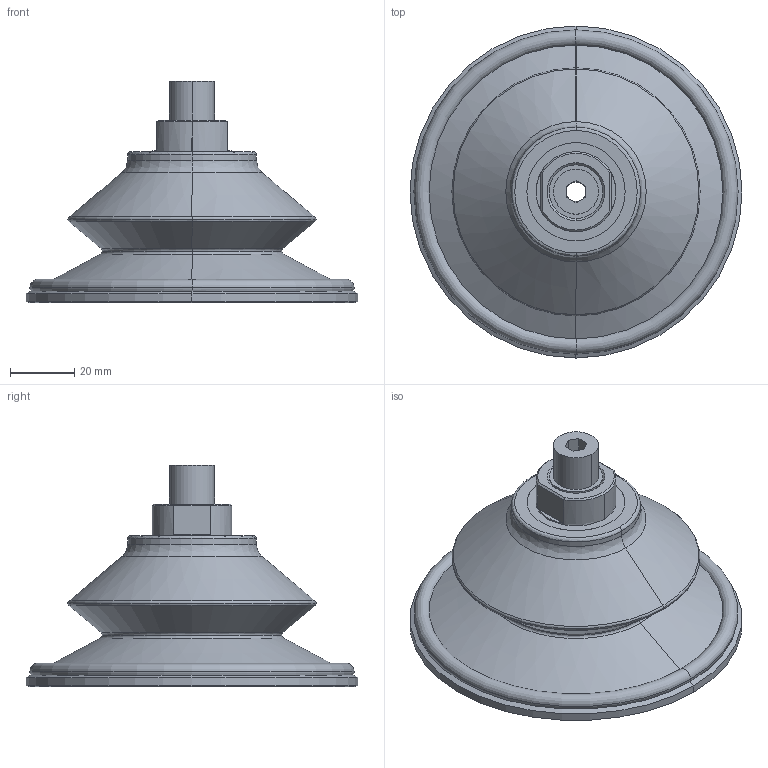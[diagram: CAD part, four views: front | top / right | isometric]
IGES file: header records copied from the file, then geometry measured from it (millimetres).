
Start section: 3D InterOp IGES (v. 2018 1.0.2), Spatial Corp. Copyright (c) 1999-2017.
Global section: file name: schmalz_10_01_06_01014_4v1r01cy8bz51iy0m72fxnnfq.igs; native system: Spatial Corp.; preprocessor: 3D InterOp ACIS/IGES; author: TraceParts; organization: TraceParts S.A.; date: 20181018.083027; units: millimetre
Bounding box: 103 x 103 x 68.62 mm (x, y, z)
Surface area: 32046.8 mm2 (no closed solid volume)
Topology: 0 solids, 0 shells, 97 faces, 408 edges, 408 vertices
Faces by surface type: revolution 62, extrusion 35
